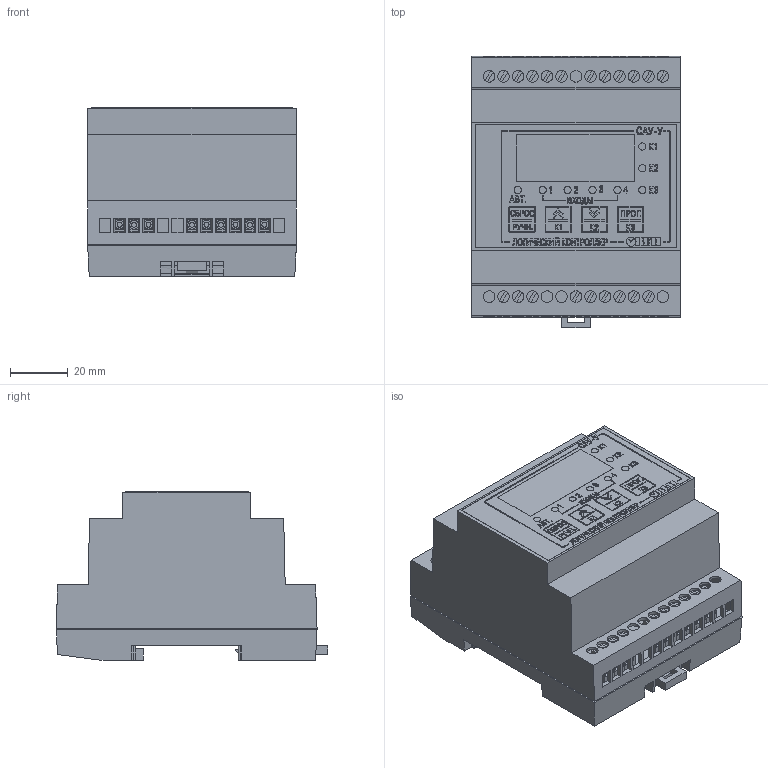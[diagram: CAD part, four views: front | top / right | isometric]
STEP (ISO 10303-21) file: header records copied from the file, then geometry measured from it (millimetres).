
FILE_DESCRIPTION (( 'STEP AP214' ), '1' );
FILE_NAME ('3D Ìîäåëü ÑÀÓ-Ó.Ä.STEP', '2015-07-21T13:39:04', ( '' ), ( '' ), 'SwSTEP 2.0', 'SolidWorks 2013', '' );
FILE_SCHEMA (( 'AUTOMOTIVE_DESIGN' ));
Length unit declared in the file: millimetre
Products named in the file (5): Êëåììà íèçêàÿ_11õ8õ5ìì; Ïàíåëü ëèöåâàÿ; Çàùåëêà; Êîðïóñ Ä4_ì; 3D Ìîäåëü ÑÀÓ-Ó.Ä
Assembly tree (24 placements, depth 2):
  3D Ìîäåëü ÑÀÓ-Ó.Ä
    Êîðïóñ Ä4_ì
    Çàùåëêà
    Ïàíåëü ëèöåâàÿ
    Êëåììà íèçêàÿ_11õ8õ5ìì  x21
Bounding box: 72 x 93.71 x 58.15 mm (x, y, z)
Volume: 222510.5 mm3; surface area: 66338.1 mm2
Topology: 24 solids, 24 shells, 2245 faces, 5869 edges, 3884 vertices
Faces by surface type: plane 1701, cylinder 292, bspline 252
Entity records: 60799 total; most frequent: CARTESIAN_POINT 11005, ORIENTED_EDGE 7578, DIRECTION 5915, EDGE_CURVE 3789, LINE 3015, VECTOR 3015, VERTEX_POINT 2524, EDGE_LOOP 1649
